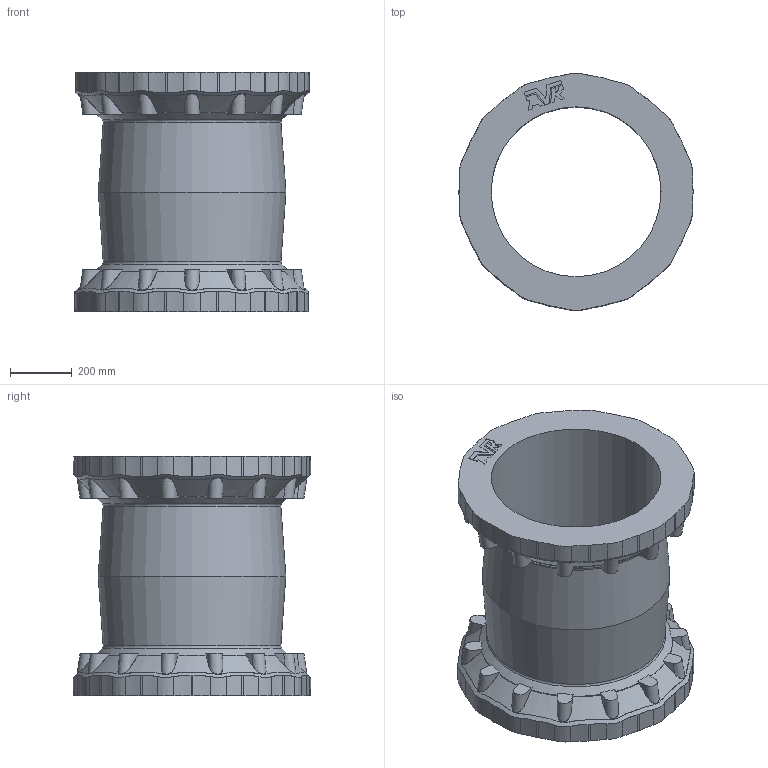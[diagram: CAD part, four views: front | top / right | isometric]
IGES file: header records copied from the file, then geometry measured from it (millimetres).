
Start section: SolidWorks IGES file using analytic representation for surfaces
Global section: file name: \\avksan2\techshare\PBM outline export from Enovia\O_631_00_DN500_AA0.igs; native system: SolidWorks 2012; preprocessor: SolidWorks 2012; author: pbm; date: 180703.074247; units: millimetre
Bounding box: 761.4 x 770.89 x 779.81 mm (x, y, z)
Surface area: 3631937.6 mm2 (no closed solid volume)
Topology: 0 solids, 0 shells, 533 faces, 3424 edges, 3416 vertices
Faces by surface type: bspline 268, revolution 265
